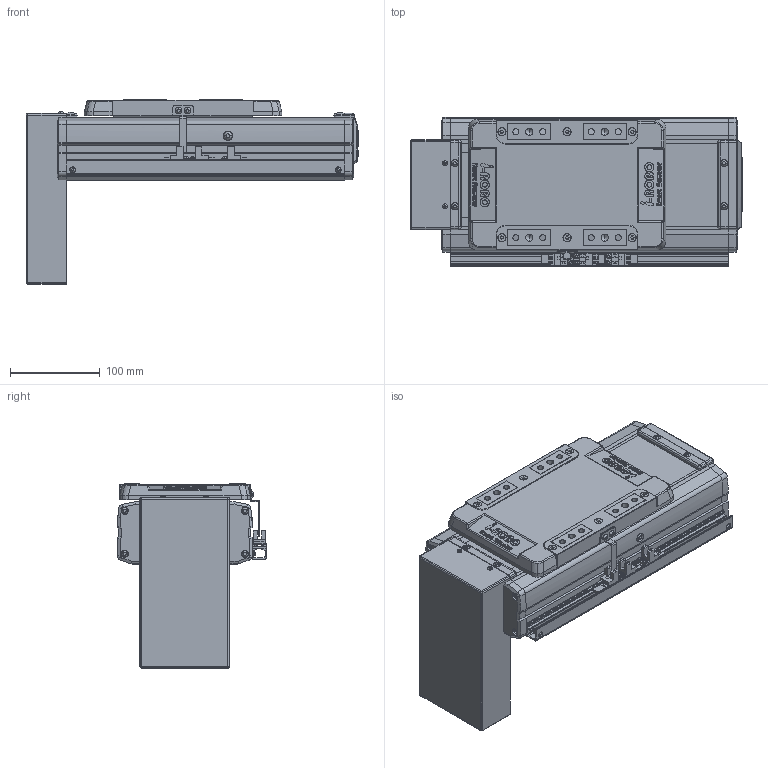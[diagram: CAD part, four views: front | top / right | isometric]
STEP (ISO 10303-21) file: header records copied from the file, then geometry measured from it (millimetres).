
FILE_DESCRIPTION(('STEP AP214'),'1');
FILE_NAME('Z:/Web/3D/SAN150/2013.04 (STP.)/SAN150ㅁㅁ-50PB+3SR.stp','2013-05-08T03:07:40',(' '),(' '),'Spatial InterOp 3D',' ',' ');
FILE_SCHEMA(('automotive_design'));
Length unit declared in the file: millimetre
Products named in the file (56): SLBL-SAN150; SLCV-SAN150; FHCS M4.0 x 8.0; BHCS M4.0 x 10.0; SFX-SAN150; RRCV-SAN150; FRBL-SAN150; Spacer; RN15; FRCV-SAN150; Screw 20; BASE-SAN150-000L ; SUS COVER; 스크루 : Round - M5.0 x 6.0; PB; 스크루 : Round - M3.0 x 6.0; M3.0 x 6.0; SRL-16x17-360L; SGD-SAN150; EE-SX674; SBK-SX674-352
Bounding box: 370 x 166 x 205.4 mm (x, y, z)
Volume: 3382325.4 mm3; surface area: 599092.7 mm2
Topology: 56 solids, 56 shells, 2456 faces, 6315 edges, 4072 vertices
Faces by surface type: plane 1356, cylinder 769, cone 222, sphere 76, bspline 21, torus 12
Entity records: 96768 total; most frequent: CARTESIAN_POINT 14901, DIRECTION 13332, ORIENTED_EDGE 12454, EDGE_CURVE 6227, AXIS2_PLACEMENT_3D 4678, VERTEX_POINT 4072, LINE 3976, VECTOR 3976
